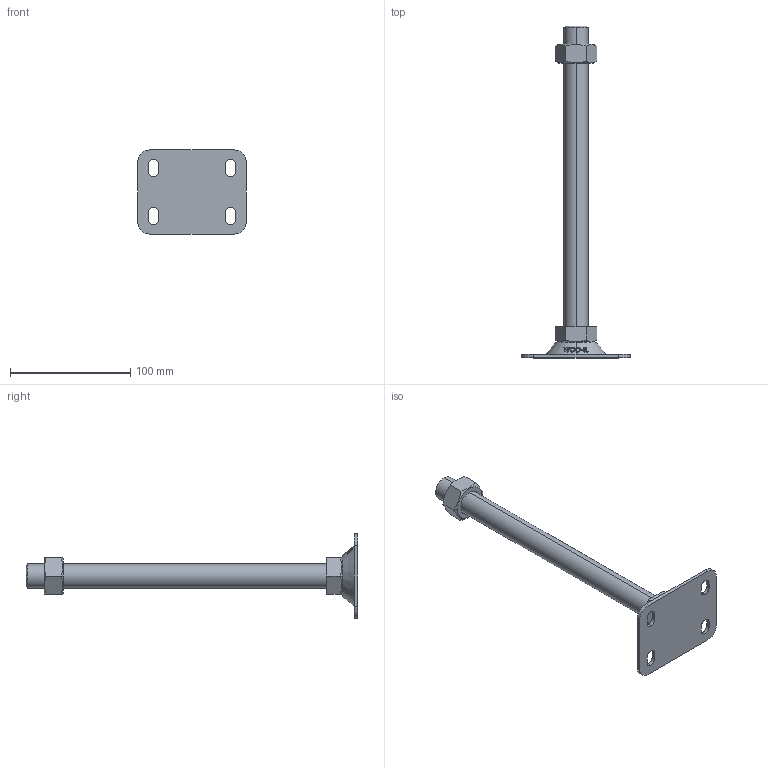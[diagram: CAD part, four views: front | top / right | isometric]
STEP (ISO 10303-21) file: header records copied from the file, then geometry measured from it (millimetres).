
FILE_DESCRIPTION (( 'STEP AP214' ), '1' );
FILE_NAME ('FABL7090-M20-250.step', '2021-03-28T23:52:54', ( '' ), ( '' ), 'SwSTEP 2.0', 'SolidWorks 2019', '' );
FILE_SCHEMA (( 'AUTOMOTIVE_DESIGN' ));
Length unit declared in the file: millimetre
Products named in the file (2): FABL7090-M20-250
Bounding box: 90 x 276 x 70 mm (x, y, z)
Volume: 127188.2 mm3; surface area: 34302.8 mm2
Topology: 2 solids, 2 shells, 146 faces, 384 edges, 252 vertices
Faces by surface type: plane 58, cylinder 48, cone 22, bspline 18
Entity records: 6096 total; most frequent: CARTESIAN_POINT 2668, ORIENTED_EDGE 768, DIRECTION 582, EDGE_CURVE 384, VERTEX_POINT 252, AXIS2_PLACEMENT_3D 210, EDGE_LOOP 166, VECTOR 162
